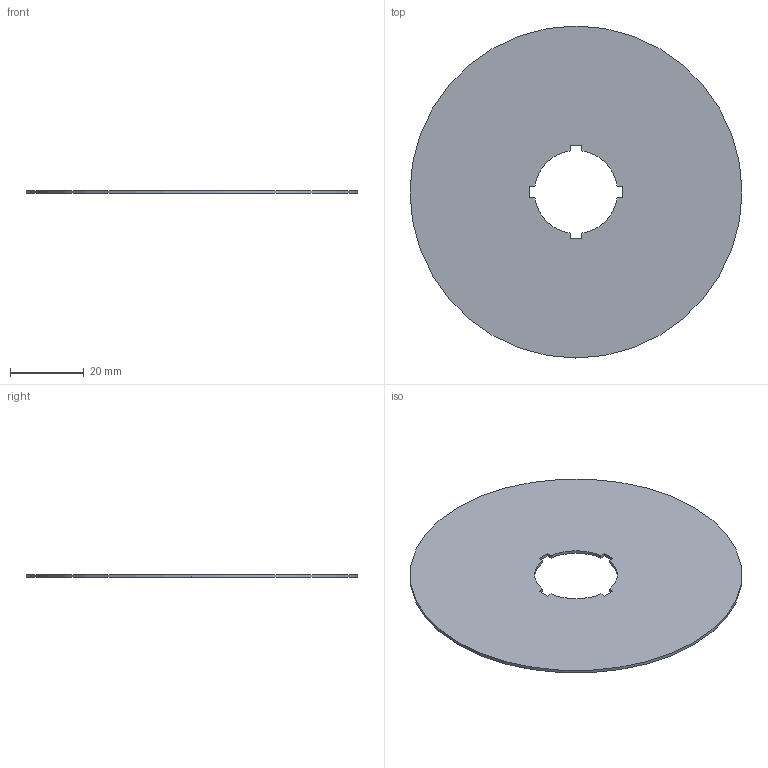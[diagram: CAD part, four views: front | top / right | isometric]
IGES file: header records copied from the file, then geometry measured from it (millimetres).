
Start section: Data from XPlus IGES,  Spatial Corp. Copyright (c) 1999-2004
Global section: file name: 216465.igs; native system:  By Spatial Corp.; preprocessor: XPlus ACIS/IGES 3.0; author: Noname; organization: Noname; date: 20120614.151808; units: millimetre
Bounding box: 90 x 90 x 0.8 mm (x, y, z)
Surface area: 12186.7 mm2 (no closed solid volume)
Topology: 0 solids, 0 shells, 20 faces, 108 edges, 108 vertices
Faces by surface type: extrusion 14, revolution 6
